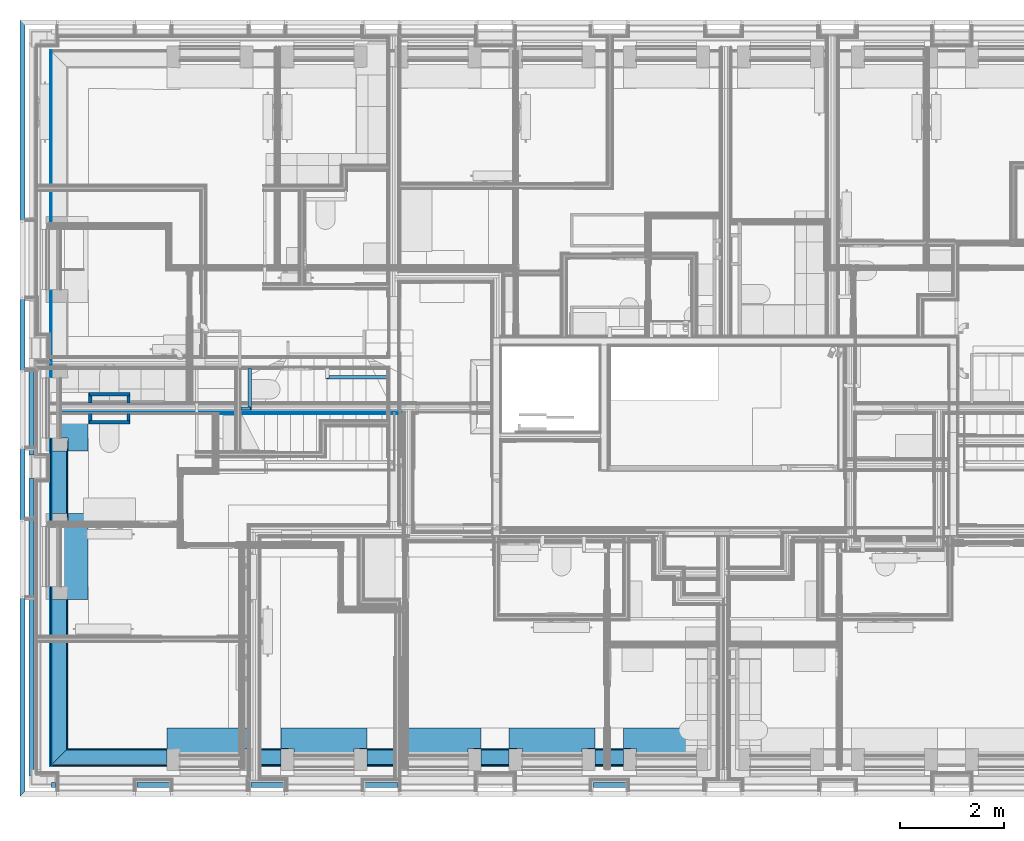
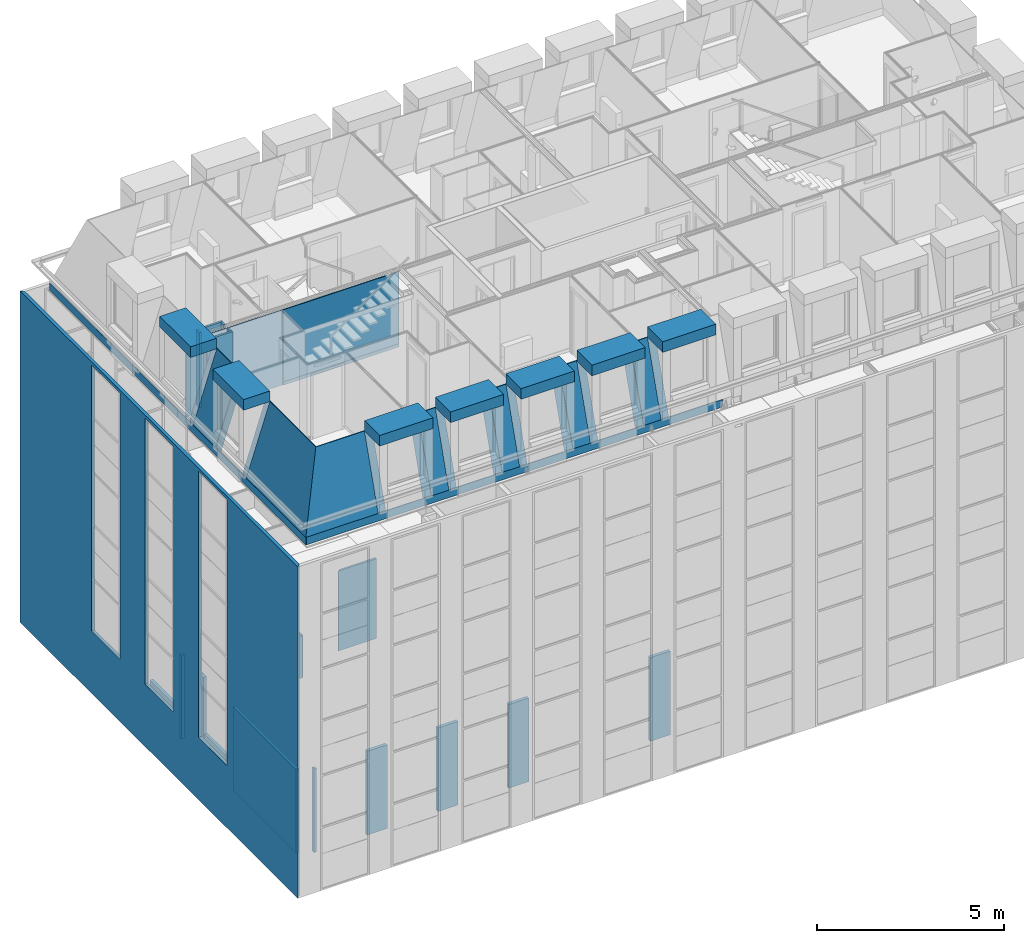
# One storey, part 1 of 169: 48 walls, 3 openings.
"""IFC2X3 building model written with IfcOpenShell, lengths in metres."""

from ifc_helpers import new_model, entity, si_unit, converted_unit, derived_unit, money_unit, direction, frame, frame_2d, origin_with_axes, place, context, subcontext, project, spatial, polyline, rectangle, outline, extrude, clip, halfspace, material, layer, layer_set, layer_usage, type_object, element, save


model = new_model("IFC2X3")

# Units and contexts
model_context = context("Model", 3, precision=1e-05, world=origin_with_axes(), true_north=direction((0.0, 1.0)))
body_context = subcontext(model_context, "Body", "Model", "MODEL_VIEW", scale=1.0)
ifc_project = project(units=[si_unit("LENGTHUNIT", "METRE"), si_unit("AREAUNIT", "SQUARE_METRE"), si_unit("VOLUMEUNIT", "CUBIC_METRE"), si_unit("ABSORBEDDOSEUNIT", "GRAY"), si_unit("AMOUNTOFSUBSTANCEUNIT", "MOLE"), si_unit("DOSEEQUIVALENTUNIT", "SIEVERT"), si_unit("ELECTRICCAPACITANCEUNIT", "FARAD"), si_unit("ELECTRICCHARGEUNIT", "COULOMB"), si_unit("ELECTRICCONDUCTANCEUNIT", "SIEMENS"), si_unit("ELECTRICCURRENTUNIT", "AMPERE"), si_unit("ELECTRICRESISTANCEUNIT", "OHM"), si_unit("ELECTRICVOLTAGEUNIT", "VOLT"), si_unit("ENERGYUNIT", "JOULE"), si_unit("FORCEUNIT", "NEWTON"), si_unit("FREQUENCYUNIT", "HERTZ"), si_unit("ILLUMINANCEUNIT", "LUX"), si_unit("INDUCTANCEUNIT", "HENRY"), si_unit("LUMINOUSFLUXUNIT", "LUMEN"), si_unit("LUMINOUSINTENSITYUNIT", "CANDELA"), si_unit("MAGNETICFLUXDENSITYUNIT", "TESLA"), si_unit("MAGNETICFLUXUNIT", "WEBER"), si_unit("MASSUNIT", "GRAM"), converted_unit("PLANEANGLEUNIT", "degree", entity("IfcReal", 0.0174532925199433), si_unit("PLANEANGLEUNIT", "RADIAN"), dimensions=[0, 0, 0, 0, 0, 0, 0]), si_unit("POWERUNIT", "WATT"), si_unit("PRESSUREUNIT", "PASCAL"), si_unit("RADIOACTIVITYUNIT", "BECQUEREL"), si_unit("SOLIDANGLEUNIT", "STERADIAN"), si_unit("THERMODYNAMICTEMPERATUREUNIT", "KELVIN"), si_unit("TIMEUNIT", "SECOND"), derived_unit("ACCELERATIONUNIT", [(si_unit("LENGTHUNIT", "METRE"), 1), (si_unit("TIMEUNIT", "SECOND"), -2)]), derived_unit("ANGULARVELOCITYUNIT", [(converted_unit("PLANEANGLEUNIT", "degree", entity("IfcReal", 0.0174532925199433), si_unit("PLANEANGLEUNIT", "RADIAN"), dimensions=[0, 0, 0, 0, 0, 0, 0]), 1), (si_unit("TIMEUNIT", "SECOND"), -1)]), derived_unit("CURVATUREUNIT", [(converted_unit("PLANEANGLEUNIT", "degree", entity("IfcReal", 0.0174532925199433), si_unit("PLANEANGLEUNIT", "RADIAN"), dimensions=[0, 0, 0, 0, 0, 0, 0]), 1), (si_unit("LENGTHUNIT", "METRE"), -1)]), derived_unit("DYNAMICVISCOSITYUNIT", [(si_unit("PRESSUREUNIT", "PASCAL"), 1), (si_unit("TIMEUNIT", "SECOND"), 1)]), derived_unit("HEATFLUXDENSITYUNIT", [(si_unit("POWERUNIT", "WATT"), 1), (si_unit("LENGTHUNIT", "METRE"), -2)]), derived_unit("HEATINGVALUEUNIT", [(si_unit("ENERGYUNIT", "JOULE"), 1), (si_unit("MASSUNIT", "GRAM"), -1)]), derived_unit("INTEGERCOUNTRATEUNIT", [(si_unit("TIMEUNIT", "SECOND"), -1)]), derived_unit("IONCONCENTRATIONUNIT", [(si_unit("MASSUNIT", "GRAM"), 1), (si_unit("VOLUMEUNIT", "CUBIC_METRE"), -1)]), derived_unit("ISOTHERMALMOISTURECAPACITYUNIT", [(si_unit("VOLUMEUNIT", "CUBIC_METRE"), 1), (si_unit("MASSUNIT", "GRAM"), -1)]), derived_unit("KINEMATICVISCOSITYUNIT", [(si_unit("AREAUNIT", "SQUARE_METRE"), 1), (si_unit("TIMEUNIT", "SECOND"), -1)]), derived_unit("LINEARFORCEUNIT", [(si_unit("FORCEUNIT", "NEWTON"), 1), (si_unit("LENGTHUNIT", "METRE"), -1)]), derived_unit("LINEARMOMENTUNIT", [(si_unit("FORCEUNIT", "NEWTON"), 1), (si_unit("LENGTHUNIT", "METRE"), -1)]), derived_unit("LINEARSTIFFNESSUNIT", [(si_unit("FORCEUNIT", "NEWTON"), 1), (si_unit("LENGTHUNIT", "METRE"), -1)]), derived_unit("LINEARVELOCITYUNIT", [(si_unit("LENGTHUNIT", "METRE"), 1), (si_unit("TIMEUNIT", "SECOND"), -1)]), derived_unit("LUMINOUSINTENSITYDISTRIBUTIONUNIT", [(si_unit("LUMINOUSINTENSITYUNIT", "CANDELA"), 1), (si_unit("LUMINOUSFLUXUNIT", "LUMEN"), -1)]), derived_unit("MASSDENSITYUNIT", [(si_unit("MASSUNIT", "GRAM"), 1), (si_unit("VOLUMEUNIT", "CUBIC_METRE"), -1)]), derived_unit("MASSFLOWRATEUNIT", [(si_unit("MASSUNIT", "GRAM"), 1), (si_unit("TIMEUNIT", "SECOND"), -1)]), derived_unit("MASSPERLENGTHUNIT", [(si_unit("MASSUNIT", "GRAM"), 1), (si_unit("LENGTHUNIT", "METRE"), -1)]), derived_unit("MODULUSOFELASTICITYUNIT", [(si_unit("FORCEUNIT", "NEWTON"), 1), (si_unit("AREAUNIT", "SQUARE_METRE"), -1)]), derived_unit("MODULUSOFLINEARSUBGRADEREACTIONUNIT", [(si_unit("FORCEUNIT", "NEWTON"), 1), (si_unit("LENGTHUNIT", "METRE"), -2)]), derived_unit("MODULUSOFROTATIONALSUBGRADEREACTIONUNIT", [(si_unit("FORCEUNIT", "NEWTON"), 1), (si_unit("LENGTHUNIT", "METRE"), 1)]), derived_unit("MODULUSOFSUBGRADEREACTIONUNIT", [(si_unit("FORCEUNIT", "NEWTON"), 1), (si_unit("VOLUMEUNIT", "CUBIC_METRE"), -1)]), derived_unit("MOISTUREDIFFUSIVITYUNIT", [(si_unit("VOLUMEUNIT", "CUBIC_METRE"), 1), (si_unit("TIMEUNIT", "SECOND"), -1)]), derived_unit("MOLECULARWEIGHTUNIT", [(si_unit("MASSUNIT", "GRAM"), 1), (si_unit("AMOUNTOFSUBSTANCEUNIT", "MOLE"), -1)]), derived_unit("PLANARFORCEUNIT", [(si_unit("FORCEUNIT", "NEWTON"), 1), (si_unit("LENGTHUNIT", "METRE"), -2)]), derived_unit("ROTATIONALFREQUENCYUNIT", [(si_unit("TIMEUNIT", "SECOND"), -1)]), derived_unit("ROTATIONALMASSUNIT", [(si_unit("MASSUNIT", "GRAM"), 1), (si_unit("LENGTHUNIT", "METRE"), 2)]), derived_unit("ROTATIONALSTIFFNESSUNIT", [(si_unit("FORCEUNIT", "NEWTON"), 1), (si_unit("LENGTHUNIT", "METRE"), 1), (converted_unit("PLANEANGLEUNIT", "degree", entity("IfcReal", 0.0174532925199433), si_unit("PLANEANGLEUNIT", "RADIAN"), dimensions=[0, 0, 0, 0, 0, 0, 0]), -1)]), derived_unit("SECTIONAREAINTEGRALUNIT", [(si_unit("LENGTHUNIT", "METRE"), 5)]), derived_unit("SECTIONMODULUSUNIT", [(si_unit("LENGTHUNIT", "METRE"), 3)]), derived_unit("SHEARMODULUSUNIT", [(si_unit("FORCEUNIT", "NEWTON"), 1), (si_unit("AREAUNIT", "SQUARE_METRE"), -1)]), derived_unit("SOUNDPOWERUNIT", [(si_unit("ENERGYUNIT", "JOULE"), 1), (si_unit("TIMEUNIT", "SECOND"), -1)]), derived_unit("SPECIFICHEATCAPACITYUNIT", [(si_unit("FORCEUNIT", "NEWTON"), 1), (si_unit("MASSUNIT", "GRAM"), -1), (si_unit("THERMODYNAMICTEMPERATUREUNIT", "KELVIN"), -1)]), derived_unit("TEMPERATUREGRADIENTUNIT", [(si_unit("THERMODYNAMICTEMPERATUREUNIT", "KELVIN"), 1), (si_unit("LENGTHUNIT", "METRE"), -1)]), derived_unit("THERMALADMITTANCEUNIT", [(si_unit("POWERUNIT", "WATT"), 1), (si_unit("AREAUNIT", "SQUARE_METRE"), -1), (si_unit("THERMODYNAMICTEMPERATUREUNIT", "KELVIN"), -1)]), derived_unit("THERMALCONDUCTANCEUNIT", [(si_unit("POWERUNIT", "WATT"), 1), (si_unit("LENGTHUNIT", "METRE"), -1), (si_unit("THERMODYNAMICTEMPERATUREUNIT", "KELVIN"), -1)]), derived_unit("THERMALEXPANSIONCOEFFICIENTUNIT", [(si_unit("THERMODYNAMICTEMPERATUREUNIT", "KELVIN"), -1)]), derived_unit("THERMALRESISTANCEUNIT", [(si_unit("AREAUNIT", "SQUARE_METRE"), 1), (si_unit("POWERUNIT", "WATT"), -1)]), derived_unit("THERMALTRANSMITTANCEUNIT", [(si_unit("POWERUNIT", "WATT"), 1), (si_unit("AREAUNIT", "SQUARE_METRE"), -1), (si_unit("THERMODYNAMICTEMPERATUREUNIT", "KELVIN"), -1)]), derived_unit("TORQUEUNIT", [(si_unit("FORCEUNIT", "NEWTON"), 1), (si_unit("LENGTHUNIT", "METRE"), 1)]), derived_unit("VAPORPERMEABILITYUNIT", [(si_unit("MASSUNIT", "GRAM"), 1), (si_unit("TIMEUNIT", "SECOND"), -1)]), derived_unit("VOLUMETRICFLOWRATEUNIT", [(si_unit("VOLUMEUNIT", "CUBIC_METRE"), 1), (si_unit("TIMEUNIT", "SECOND"), -1)]), derived_unit("WARPINGCONSTANTUNIT", [(si_unit("LENGTHUNIT", "METRE"), 6)]), derived_unit("WARPINGMOMENTUNIT", [(si_unit("FORCEUNIT", "NEWTON"), 1), (si_unit("LENGTHUNIT", "METRE"), 2)]), money_unit("GBP")], contexts=[model_context])

# Site, building, storey
site_placement = place(None, origin_with_axes())
site = spatial("IfcSite", under=ifc_project, at=site_placement, Name="Site", CompositionType="ELEMENT")
building_placement = place(site_placement, origin_with_axes())
building = spatial("IfcBuilding", under=site, at=building_placement, Name="Building01", CompositionType="ELEMENT")
storey_placement = place(building_placement, frame((0.0, 0.0, 5.15), z_axis=(0.0, 0.0, 1.0), x_axis=(1.0, 0.0, 0.0)))
storey = spatial("IfcBuildingStorey", under=building, at=storey_placement, Name="1F", CompositionType="ELEMENT", Elevation=5.15)

# Wall, openings
ifc_material_1 = material(Name="A_BSUK_WallsExternal_Brick")
ifc_layer_1 = layer(ifc_material_1, 0.1, ventilated=False)
ifc_layer_set_1 = layer_set([ifc_layer_1])
ifc_layer_usage_1 = layer_usage(ifc_layer_set_1, "AXIS2", "POSITIVE", 0.0)
wall_type_1 = type_object("IfcWallType", Name="A-Walls-ExternalBrick", PredefinedType="NOTDEFINED")
wall_1_placement = place(storey_placement, frame((0.0, 0.0, -1.18), z_axis=(0.0, 0.0, 1.0), x_axis=(0.0, 1.0, 0.0)))
wall_1 = element("IfcWallStandardCase", 1, at=wall_1_placement, inside=storey, type_object=wall_type_1, material=ifc_layer_usage_1, Name="A-Walls-ExternalBrick", ObjectType="A-Walls-ExternalBrick", context=body_context, shape_type="SweptSolid", body=[
    extrude(outline(polyline([(14.9, 0.0), (0.0, 0.0), (0.1, -0.1), (14.8, -0.1), (14.9, 0.0)])), origin_with_axes(), (0.0, 0.0, 1.0), 10.850238),
])
opening_1_placement = place(wall_1_placement, frame((9.53718, -0.1, 2.045508), z_axis=(0.0, 0.0, 1.0), x_axis=(1.0, 0.0, 0.0)))
element("IfcOpeningElement", 2, at=opening_1_placement, cuts=wall_1, Name="Opening", ObjectType="Opening", context=body_context, shape_type="SweptSolid", body=[
    extrude(rectangle(XDim=1.52, YDim=8.7, at=frame_2d((-0.76, 4.35), x_axis=(-1.0, 0.0))), frame((0.0, 0.0, 0.0), z_axis=(0.0, 1.0, 0.0), x_axis=(-1.0, 0.0, 0.0)), (0.0, 0.0, 1.0), 0.1),
])
opening_2_placement = place(wall_1_placement, frame((6.66718, -0.1, 2.045508), z_axis=(0.0, 0.0, 1.0), x_axis=(1.0, 0.0, 0.0)))
element("IfcOpeningElement", 3, at=opening_2_placement, cuts=wall_1, Name="Opening", ObjectType="Opening", context=body_context, shape_type="SweptSolid", body=[
    extrude(rectangle(XDim=1.52, YDim=8.7, at=frame_2d((-0.76, 4.35), x_axis=(-1.0, 0.0))), frame((0.0, 0.0, 0.0), z_axis=(0.0, 1.0, 0.0), x_axis=(-1.0, 0.0, 0.0)), (0.0, 0.0, 1.0), 0.1),
])
opening_3_placement = place(wall_1_placement, frame((3.79718, -0.1, 2.045508), z_axis=(0.0, 0.0, 1.0), x_axis=(1.0, 0.0, 0.0)))
element("IfcOpeningElement", 4, at=opening_3_placement, cuts=wall_1, Name="Opening", ObjectType="Opening", context=body_context, shape_type="SweptSolid", body=[
    extrude(rectangle(XDim=1.52, YDim=8.7, at=frame_2d((-0.76, 4.35), x_axis=(-1.0, 0.0))), frame((0.0, 0.0, 0.0), z_axis=(0.0, 1.0, 0.0), x_axis=(-1.0, 0.0, 0.0)), (0.0, 0.0, 1.0), 0.1),
])

# Walls
ifc_material_2 = material(Name="A_BSUK_WallsExternal_Block")
ifc_layer_2 = layer(ifc_material_2, 0.1, ventilated=False)
ifc_layer_set_2 = layer_set([ifc_layer_2])
ifc_layer_usage_2 = layer_usage(ifc_layer_set_2, "AXIS2", "POSITIVE", 0.0)
wall_type_2 = type_object("IfcWallType", Name="A-Walls-ExternalBlock", PredefinedType="NOTDEFINED")
wall_2_placement = place(storey_placement, frame((0.17, 8.233, 0.0), z_axis=(0.0, 0.0, 1.0), x_axis=(0.0, -1.0, 0.0)))
element("IfcWallStandardCase", 5, at=wall_2_placement, inside=storey, type_object=wall_type_2, material=ifc_layer_usage_2, Name="A-Walls-ExternalBlock", ObjectType="A-Walls-ExternalBlock", context=body_context, shape_type="SweptSolid", body=[
    extrude(rectangle(XDim=1.58882, YDim=0.1, at=frame_2d((0.79441, 0.05), x_axis=(1.0, 0.0))), origin_with_axes(), (0.0, 0.0, 1.0), 0.915),
])
wall_3_placement = place(storey_placement, frame((0.17, 6.64418, 0.0), z_axis=(0.0, 0.0, 1.0), x_axis=(0.0, -1.0, 0.0)))
element("IfcWallStandardCase", 6, at=wall_3_placement, inside=storey, type_object=wall_type_2, material=ifc_layer_usage_2, Name="A-Walls-ExternalBlock", ObjectType="A-Walls-ExternalBlock", context=body_context, shape_type="SweptSolid", body=[
    extrude(rectangle(XDim=0.09618, YDim=0.1, at=frame_2d((0.04809, 0.05), x_axis=(-1.0, 0.0))), origin_with_axes(), (0.0, 0.0, 1.0), 2.74),
])
wall_4_placement = place(storey_placement, frame((0.17, 6.1, 0.0), z_axis=(0.0, 0.0, 1.0), x_axis=(0.0, -1.0, 0.0)))
element("IfcWallStandardCase", 7, at=wall_4_placement, inside=storey, type_object=wall_type_2, material=ifc_layer_usage_2, Name="A-Walls-ExternalBlock", ObjectType="A-Walls-ExternalBlock", context=body_context, shape_type="SweptSolid", body=[
    extrude(rectangle(XDim=0.737, YDim=0.1, at=frame_2d((0.3685, 0.05), x_axis=(-1.0, 0.0))), origin_with_axes(), (0.0, 0.0, 1.0), 2.74),
])
wall_5_placement = place(storey_placement, frame((0.17, 3.77418, 0.0), z_axis=(0.0, 0.0, 1.0), x_axis=(0.0, -1.0, 0.0)))
element("IfcWallStandardCase", 8, at=wall_5_placement, inside=storey, type_object=wall_type_2, material=ifc_layer_usage_2, Name="A-Walls-ExternalBlock", ObjectType="A-Walls-ExternalBlock", context=body_context, shape_type="SweptSolid", body=[
    extrude(rectangle(XDim=0.1, YDim=3.37418, at=frame_2d((1.68709, 0.05), x_axis=(0.0, -1.0))), origin_with_axes(), (0.0, 0.0, 1.0), 2.74),
])
wall_6_placement = place(storey_placement, frame((0.677, 0.27, 0.0), z_axis=(0.0, 0.0, 1.0), x_axis=(-1.0, 0.0, 0.0)))
element("IfcWallStandardCase", 9, at=wall_6_placement, inside=storey, type_object=wall_type_2, material=ifc_layer_usage_2, Name="A-Walls-ExternalBlock", ObjectType="A-Walls-ExternalBlock", context=body_context, shape_type="SweptSolid", body=[
    extrude(rectangle(XDim=0.1, YDim=0.077, at=frame_2d((0.0385, 0.05), x_axis=(0.0, -1.0))), origin_with_axes(), (0.0, 0.0, 1.0), 2.74),
])
for number, where, z_axis, x_axis, name in (
    (10, (2.867, 0.27, 0.0), (0.0, 0.0, 1.0), (-1.0, 0.0, 0.0), "A-Walls-ExternalBlock"),
    (11, (5.057, 0.27, 0.0), (0.0, 0.0, 1.0), (-1.0, 0.0, 0.0), "A-Walls-ExternalBlock"),
    (12, (7.247, 0.27, 0.0), (0.0, 0.0, 1.0), (-1.0, 0.0, 0.0), "A-Walls-ExternalBlock"),
    (13, (11.627, 0.27, 0.0), (0.0, 0.0, 1.0), (-1.0, 0.0, 0.0), "A-Walls-ExternalBlock"),
):
    element("IfcWallStandardCase", number, at=place(storey_placement, frame(where, z_axis=z_axis, x_axis=x_axis)), inside=storey, type_object=wall_type_2, material=ifc_layer_usage_2, Name=name, ObjectType="A-Walls-ExternalBlock", context=body_context, shape_type="SweptSolid", body=[
        extrude(rectangle(XDim=0.624, YDim=0.1, at=frame_2d((0.312, 0.05), x_axis=(-1.0, 0.0))), origin_with_axes(), (0.0, 0.0, 1.0), 2.74),
    ])
wall_7_placement = place(storey_placement, frame((0.17, 5.315, 0.0), z_axis=(0.0, 0.0, 1.0), x_axis=(0.0, -1.0, 0.0)))
element("IfcWallStandardCase", 14, at=wall_7_placement, inside=storey, type_object=wall_type_2, material=ifc_layer_usage_2, Name="A-Walls-ExternalBlock", ObjectType="A-Walls-ExternalBlock", context=body_context, shape_type="SweptSolid", body=[
    extrude(rectangle(XDim=0.1, YDim=1.54082, at=frame_2d((0.77041, 0.05), x_axis=(0.0, -1.0))), origin_with_axes(), (0.0, 0.0, 1.0), 0.915),
])
ifc_material_3 = material(Name="A_BSUK_WallsInternal")
ifc_layer_3 = layer(ifc_material_3, 0.025, ventilated=False)
ifc_layer_set_3 = layer_set([ifc_layer_3])
ifc_layer_usage_3 = layer_usage(ifc_layer_set_3, "AXIS2", "POSITIVE", 0.0)
wall_type_3 = type_object("IfcWallType", Name="A-Walls-Internal", PredefinedType="NOTDEFINED")
wall_8_placement = place(storey_placement, frame((0.5788, 0.5788, 9.83), z_axis=(0.0, 0.0, 1.0), x_axis=(1.0, 0.0, 0.0)))
element("IfcWallStandardCase", 15, at=wall_8_placement, inside=storey, type_object=wall_type_3, material=ifc_layer_usage_3, Name="7C", ObjectType="A-Walls-Internal", context=body_context, shape_type="SweptSolid", body=[
    extrude(outline(polyline([(0.025, 0.025), (0.0, 0.0), (12.9112, 0.0), (12.9112, 0.025), (0.025, 0.025)])), origin_with_axes(), (0.0, 0.0, 1.0), 0.25),
])
wall_9_placement = place(storey_placement, frame((0.5788, 7.45, 9.83), z_axis=(0.0, 0.0, 1.0), x_axis=(0.0, -1.0, 0.0)))
element("IfcWallStandardCase", 16, at=wall_9_placement, inside=storey, type_object=wall_type_3, material=ifc_layer_usage_3, Name="7C", ObjectType="A-Walls-Internal", context=body_context, shape_type="SweptSolid", body=[
    extrude(outline(polyline([(6.8462, 0.025), (0.0, 0.025), (0.0, 0.0), (6.8712, 0.0), (6.8462, 0.025)])), origin_with_axes(), (0.0, 0.0, 1.0), 0.25),
])
ifc_layer_4 = layer(ifc_material_3, 0.015, ventilated=False)
ifc_layer_set_4 = layer_set([ifc_layer_4])
ifc_layer_usage_4 = layer_usage(ifc_layer_set_4, "AXIS2", "POSITIVE", 0.0)
wall_10_placement = place(storey_placement, frame((0.5788, 14.3212, 9.83), z_axis=(0.0, 0.0, 1.0), x_axis=(0.0, -1.0, 0.0)))
element("IfcWallStandardCase", 17, at=wall_10_placement, inside=storey, type_object=wall_type_3, material=ifc_layer_usage_4, Name="7C", ObjectType="A-Walls-Internal", context=body_context, shape_type="SweptSolid", body=[
    extrude(rectangle(XDim=13.7424, YDim=0.015, at=frame_2d((6.8712, 0.0075), x_axis=(-1.0, 0.0))), origin_with_axes(), (0.0, 0.0, 1.0), 0.25),
])
wall_11_placement = place(storey_placement, frame((0.5938, 14.3062, 9.83), z_axis=(0.0, 0.0, 1.0), x_axis=(0.0, -1.0, 0.0)))
element("IfcWallStandardCase", 18, at=wall_11_placement, inside=storey, type_object=wall_type_3, material=ifc_layer_usage_4, Name="7C", ObjectType="A-Walls-Internal", context=body_context, shape_type="SweptSolid", body=[
    extrude(rectangle(XDim=13.7124, YDim=0.015, at=frame_2d((6.8562, 0.0075), x_axis=(-1.0, 0.0))), origin_with_axes(), (0.0, 0.0, 1.0), 0.25),
])
ifc_material_4 = material(Name="A_BSUK_Walls_Timber")
ifc_layer_5 = layer(ifc_material_4, 0.015, ventilated=False)
ifc_material_5 = material(Name="A_BSUK_OpeningsClearance")
ifc_layer_6 = layer(ifc_material_5, 0.05, ventilated=False)
ifc_layer_set_5 = layer_set([ifc_layer_5, ifc_layer_6])
ifc_layer_usage_5 = layer_usage(ifc_layer_set_5, "AXIS2", "POSITIVE", 0.0)
wall_type_4 = type_object("IfcWallType", Name="SHE_A-Walls_Type05c_PreWallShell_65mm", PredefinedType="NOTDEFINED")
wall_12_placement = place(storey_placement, frame((5.929669, 8.07567, 0.0), z_axis=(0.0, 0.0, 1.0), x_axis=(1.0, 0.0, 0.0)))
element("IfcWallStandardCase", 19, at=wall_12_placement, inside=storey, type_object=wall_type_4, material=ifc_layer_usage_5, Name="5C", ObjectType="SHE_A-Walls_Type05c_PreWallShell_65mm", context=body_context, shape_type="SweptSolid", body=[
    extrude(outline(polyline([(1.135, 0.0), (0.0, 0.0), (0.0, -0.05), (-0.05, -0.05), (-0.05, -0.065), (1.135, -0.065), (1.135, 0.0)])), origin_with_axes(), (0.0, 0.0, 1.0), 2.615),
])
ifc_layer_set_6 = layer_set([ifc_layer_6, ifc_layer_5])
ifc_layer_usage_6 = layer_usage(ifc_layer_set_6, "AXIS2", "POSITIVE", 0.0)
wall_13_placement = place(storey_placement, frame((4.37573, 8.21067, 0.0), z_axis=(0.0, 0.0, 1.0), x_axis=(0.0, -1.0, 0.0)))
element("IfcWallStandardCase", 20, at=wall_13_placement, inside=storey, type_object=wall_type_4, material=ifc_layer_usage_6, Name="5C", ObjectType="SHE_A-Walls_Type05c_PreWallShell_65mm", context=body_context, shape_type="SweptSolid", body=[
    extrude(outline(polyline([(0.735, 0.05), (0.8, 0.05), (0.8, 0.065), (0.0, 0.065), (0.0, 0.0), (0.735, 0.0), (0.735, 0.05)])), origin_with_axes(), (0.0, 0.0, 1.0), 1.375),
])
wall_14_placement = place(storey_placement, frame((4.42573, 7.47567, 0.0), z_axis=(0.0, 0.0, 1.0), x_axis=(-1.0, 0.0, 0.0)))
element("IfcWallStandardCase", 21, at=wall_14_placement, inside=storey, type_object=wall_type_4, material=ifc_layer_usage_6, Name="5C", ObjectType="SHE_A-Walls_Type05c_PreWallShell_65mm", context=body_context, shape_type="SweptSolid", body=[
    extrude(rectangle(XDim=0.185, YDim=0.065, at=frame_2d((0.0925, 0.0325), x_axis=(-1.0, 0.0))), origin_with_axes(), (0.0, 0.0, 1.0), 1.375),
])
wall_15_placement = place(storey_placement, frame((2.100111, 7.21494, 9.83), z_axis=(0.0, 0.0, 1.0), x_axis=(1.0, 0.0, 0.0)))
element("IfcWallStandardCase", 22, at=wall_15_placement, inside=storey, type_object=wall_type_4, material=ifc_layer_usage_5, Name="5C", ObjectType="SHE_A-Walls_Type05c_PreWallShell_65mm", context=body_context, shape_type="SweptSolid", body=[
    extrude(outline(polyline([(0.015, -0.065), (0.015, -0.05), (0.0, -0.05), (0.0, 0.0), (-0.77, 0.0), (-0.77, -0.05), (-0.785, -0.05), (-0.785, -0.065), (0.015, -0.065)])), origin_with_axes(), (0.0, 0.0, 1.0), 2.468),
])
wall_16_placement = place(storey_placement, frame((2.050111, 7.349889, 9.83), z_axis=(0.0, 0.0, 1.0), x_axis=(0.0, 1.0, 0.0)))
element("IfcWallStandardCase", 23, at=wall_16_placement, inside=storey, type_object=wall_type_4, material=ifc_layer_usage_5, Name="5C", ObjectType="SHE_A-Walls_Type05c_PreWallShell_65mm", context=body_context, shape_type="SweptSolid", body=[
    extrude(outline(polyline([(0.0, -0.065), (0.0, 0.0), (-0.134949, 0.0), (-0.134949, -0.05), (-0.184949, -0.05), (-0.184949, -0.065), (0.0, -0.065)])), origin_with_axes(), (0.0, 0.0, 1.0), 2.468),
])
wall_17_placement = place(storey_placement, frame((1.380111, 7.349889, 9.83), z_axis=(0.0, 0.0, 1.0), x_axis=(0.0, 1.0, 0.0)))
element("IfcWallStandardCase", 24, at=wall_17_placement, inside=storey, type_object=wall_type_4, material=ifc_layer_usage_6, Name="5C", ObjectType="SHE_A-Walls_Type05c_PreWallShell_65mm", context=body_context, shape_type="SweptSolid", body=[
    extrude(outline(polyline([(0.0, 0.0), (0.0, 0.065), (-0.184949, 0.065), (-0.184949, 0.05), (-0.134949, 0.05), (-0.134949, 0.0), (0.0, 0.0)])), origin_with_axes(), (0.0, 0.0, 1.0), 2.468),
])
wall_18_placement = place(storey_placement, frame((2.100111, 7.68506, 9.83), z_axis=(0.0, 0.0, 1.0), x_axis=(-1.0, 0.0, 0.0)))
element("IfcWallStandardCase", 25, at=wall_18_placement, inside=storey, type_object=wall_type_4, material=ifc_layer_usage_5, Name="5C", ObjectType="SHE_A-Walls_Type05c_PreWallShell_65mm", context=body_context, shape_type="SweptSolid", body=[
    extrude(outline(polyline([(0.77, -0.05), (0.77, 0.0), (0.0, 0.0), (0.0, -0.05), (-0.015, -0.05), (-0.015, -0.065), (0.785, -0.065), (0.785, -0.05), (0.77, -0.05)])), origin_with_axes(), (0.0, 0.0, 1.0), 2.468),
])
wall_19_placement = place(storey_placement, frame((2.050111, 7.550111, 9.83), z_axis=(0.0, 0.0, 1.0), x_axis=(0.0, 1.0, 0.0)))
element("IfcWallStandardCase", 26, at=wall_19_placement, inside=storey, type_object=wall_type_4, material=ifc_layer_usage_5, Name="5C", ObjectType="SHE_A-Walls_Type05c_PreWallShell_65mm", context=body_context, shape_type="SweptSolid", body=[
    extrude(outline(polyline([(0.134949, -0.05), (0.134949, 0.0), (0.0, 0.0), (0.0, -0.065), (0.184949, -0.065), (0.184949, -0.05), (0.134949, -0.05)])), origin_with_axes(), (0.0, 0.0, 1.0), 2.468),
])
wall_20_placement = place(storey_placement, frame((1.380111, 7.550111, 9.83), z_axis=(0.0, 0.0, 1.0), x_axis=(0.0, 1.0, 0.0)))
element("IfcWallStandardCase", 27, at=wall_20_placement, inside=storey, type_object=wall_type_4, material=ifc_layer_usage_6, Name="5C", ObjectType="SHE_A-Walls_Type05c_PreWallShell_65mm", context=body_context, shape_type="SweptSolid", body=[
    extrude(outline(polyline([(0.134949, 0.05), (0.184949, 0.05), (0.184949, 0.065), (0.0, 0.065), (0.0, 0.0), (0.134949, 0.0), (0.134949, 0.05)])), origin_with_axes(), (0.0, 0.0, 1.0), 2.468),
])
ifc_material_6 = material(Name="A_BSUK_WallInternal_Finishes_Plasterboard")
ifc_layer_7 = layer(ifc_material_6, 0.015, ventilated=False)
ifc_layer_set_7 = layer_set([ifc_layer_7])
ifc_layer_usage_7 = layer_usage(ifc_layer_set_7, "AXIS2", "POSITIVE", 0.0)
wall_type_5 = type_object("IfcWallType", Name="default", PredefinedType="NOTDEFINED")
wall_21_placement = place(storey_placement, frame((7.36, 7.364939, 9.83), z_axis=(0.0, 0.0, 1.0), x_axis=(-1.0, 0.0, 0.0)))
element("IfcWallStandardCase", 28, at=wall_21_placement, inside=storey, type_object=wall_type_5, material=ifc_layer_usage_7, Name="default", ObjectType="default", context=body_context, shape_type="SweptSolid", body=[
    extrude(outline(polyline([(3.564889, 0.015), (0.0, 0.015), (0.0, 0.0), (3.579889, 0.0), (3.564889, 0.015)])), origin_with_axes(), (0.0, 0.0, 1.0), 2.468),
])
wall_22_placement = place(storey_placement, frame((7.375, 7.379939, 9.83), z_axis=(0.0, 0.0, 1.0), x_axis=(-1.0, 0.0, 0.0)))
element("IfcWallStandardCase", 29, at=wall_22_placement, inside=storey, type_object=wall_type_5, material=ifc_layer_usage_7, Name="default", ObjectType="default", context=body_context, shape_type="SweptSolid", body=[
    extrude(rectangle(XDim=6.595061, YDim=0.015, at=frame_2d((3.29753, 0.0075), x_axis=(-1.0, 0.0))), origin_with_axes(), (0.0, 0.0, 1.0), 2.468),
])
ifc_layer_set_8 = layer_set([ifc_layer_5])
ifc_layer_usage_8 = layer_usage(ifc_layer_set_8, "AXIS2", "POSITIVE", 0.0)
wall_23_placement = place(storey_placement, frame((7.36, 7.349939, 9.845), z_axis=(0.0, 0.0, 1.0), x_axis=(-1.0, 0.0, 0.0)))
element("IfcWallStandardCase", 30, at=wall_23_placement, inside=storey, type_object=wall_type_5, material=ifc_layer_usage_8, Name="default", ObjectType="default", context=body_context, shape_type="SweptSolid", body=[
    extrude(outline(polyline([(3.549889, 0.015), (0.0, 0.015), (0.0, 0.0), (3.564889, 0.0), (3.549889, 0.015)])), origin_with_axes(), (0.0, 0.0, 1.0), 0.1),
])
ifc_material_7 = material(Name="A_BSUK_Roofs")
wall_type_6 = type_object("IfcWallType", Name="A-Walls-ExternalBlock", PredefinedType="NOTDEFINED")
for number, where, z_axis, x_axis, name in (
    (31, (11.580024, 1.31, 12.679998), (1.0, 0.0, 0.0), (0.0, -1.0, 0.0), "7C"),
    (32, (9.390024, 1.31, 12.679998), (1.0, 0.0, 0.0), (0.0, -1.0, 0.0), "7C"),
    (33, (7.200024, 1.31, 12.679998), (1.0, 0.0, 0.0), (0.0, -1.0, 0.0), "7C"),
    (34, (5.010024, 1.31, 12.679998), (1.0, 0.0, 0.0), (0.0, -1.0, 0.0), "7C"),
    (35, (2.820024, 1.31, 12.679998), (1.0, 0.0, 0.0), (0.0, -1.0, 0.0), "7C"),
):
    element("IfcWall", number, at=place(storey_placement, frame(where, z_axis=z_axis, x_axis=x_axis)), inside=storey, type_object=wall_type_6, material=ifc_material_7, Name=name, ObjectType="A-Walls-ExternalBlock", context=body_context, shape_type="SweptSolid", body=[
        extrude(rectangle(XDim=0.81, YDim=0.349998, at=frame_2d((0.405, 0.174999), x_axis=(1.0, 0.0))), origin_with_axes(), (0.0, 0.0, 1.0), 1.65),
    ])
wall_24_placement = place(storey_placement, frame((1.309904, 8.274915, 12.679999), z_axis=(0.0, -1.0, 0.0), x_axis=(-1.0, 0.0, 0.0)))
element("IfcWall", 36, at=wall_24_placement, inside=storey, type_object=wall_type_6, material=ifc_material_7, Name="7C", ObjectType="A-Walls-ExternalBlock", context=body_context, shape_type="SweptSolid", body=[
    extrude(rectangle(XDim=0.81, YDim=0.35, at=frame_2d((0.405, 0.175), x_axis=(1.0, 0.0))), origin_with_axes(), (0.0, 0.0, 1.0), 1.65),
])
wall_25_placement = place(storey_placement, frame((1.309904, 5.424915, 12.68), z_axis=(0.0, -1.0, 0.0), x_axis=(-1.0, 0.0, 0.0)))
element("IfcWall", 37, at=wall_25_placement, inside=storey, type_object=wall_type_6, material=ifc_material_7, Name="7C", ObjectType="A-Walls-ExternalBlock", context=body_context, shape_type="SweptSolid", body=[
    extrude(rectangle(XDim=0.81, YDim=0.350001, at=frame_2d((0.405, 0.175), x_axis=(1.0, 0.0))), origin_with_axes(), (0.0, 0.0, 1.0), 1.65),
])
wall_type_7 = type_object("IfcWallType", Name="A-Walls-Internal", PredefinedType="NOTDEFINED")
wall_26_placement = place(storey_placement, frame((0.5788, 3.774964, 10.08), z_axis=(0.30901699, 0.0, 0.95105652), x_axis=(0.0, -1.0, 0.0)))
element("IfcWall", 38, at=wall_26_placement, inside=storey, type_object=wall_type_7, material=ifc_material_3, Name="7C", ObjectType="A-Walls-Internal", context=body_context, shape_type="Clipping", body=[
    clip(extrude(outline(polyline([(3.181898, 0.015), (0.0, 0.015), (0.0, 0.0), (3.196164, 0.0), (3.181898, 0.015)])), origin_with_axes(), (0.0, 0.0, 1.0), 2.373987), halfspace(frame((1.598082, 1.519866, 0.493834), z_axis=(-0.70710678, -0.67249851, -0.21850801), x_axis=(0.68915176, -0.72461704, 0.0)), True)),
])
wall_27_placement = place(storey_placement, frame((0.5788, 0.5788, 10.08), z_axis=(0.0, 0.30901699, 0.95105652), x_axis=(1.0, 0.0, 0.0)))
element("IfcWall", 39, at=wall_27_placement, inside=storey, type_object=wall_type_7, material=ifc_material_3, Name="7C", ObjectType="A-Walls-Internal", context=body_context, shape_type="Clipping", body=[
    clip(extrude(outline(polyline([(2.241224, 0.015), (0.014266, 0.015), (0.0, 0.0), (2.241224, 0.0), (2.241224, 0.015)])), origin_with_axes(), (0.0, 0.0, 1.0), 2.373987), halfspace(frame((0.0, 0.0, 0.0), z_axis=(0.70710678, -0.67249851, -0.21850801), x_axis=(0.68915176, 0.72461704, 0.0)), True)),
])
wall_28_placement = place(storey_placement, frame((4.469976, 0.5788, 10.08), z_axis=(0.0, 0.30901699, 0.95105652), x_axis=(1.0, 0.0, 0.0)))
element("IfcWall", 40, at=wall_28_placement, inside=storey, type_object=wall_type_7, material=ifc_material_3, Name="7C", ObjectType="A-Walls-Internal", context=body_context, shape_type="SweptSolid", body=[
    extrude(rectangle(XDim=0.540049, YDim=0.015, at=frame_2d((0.270024, 0.0075), x_axis=(-1.0, 0.0))), origin_with_axes(), (0.0, 0.0, 1.0), 2.373987),
])
for number, where, z_axis, x_axis, name in (
    (41, (6.660024, 0.5788, 10.08), (0.0, 0.30901699, 0.95105652), (1.0, 0.0, 0.0), "7C"),
    (42, (8.850024, 0.5788, 10.08), (0.0, 0.30901699, 0.95105652), (1.0, 0.0, 0.0), "7C"),
    (43, (11.040024, 0.5788, 10.08), (0.0, 0.30901699, 0.95105652), (1.0, 0.0, 0.0), "7C"),
):
    element("IfcWall", number, at=place(storey_placement, frame(where, z_axis=z_axis, x_axis=x_axis)), inside=storey, type_object=wall_type_7, material=ifc_material_3, Name=name, ObjectType="A-Walls-Internal", context=body_context, shape_type="SweptSolid", body=[
        extrude(rectangle(XDim=0.540001, YDim=0.015, at=frame_2d((0.27, 0.0075), x_axis=(-1.0, 0.0))), origin_with_axes(), (0.0, 0.0, 1.0), 2.373987),
    ])
wall_29_placement = place(storey_placement, frame((0.5788, 6.624965, 10.08), z_axis=(0.30901699, 0.0, 0.95105652), x_axis=(0.0, -1.0, 0.0)))
element("IfcWall", 44, at=wall_29_placement, inside=storey, type_object=wall_type_7, material=ifc_material_3, Name="7C", ObjectType="A-Walls-Internal", context=body_context, shape_type="SweptSolid", body=[
    extrude(rectangle(XDim=1.20005, YDim=0.015, at=frame_2d((0.600025, 0.0075), x_axis=(-1.0, 0.0))), origin_with_axes(), (0.0, 0.0, 1.0), 2.373987),
])
wall_30_placement = place(storey_placement, frame((0.594428, 0.594428, 10.079557), z_axis=(0.0, 0.30901699, 0.95105652), x_axis=(1.0, 0.0, 0.0)))
element("IfcWall", 45, at=wall_30_placement, inside=storey, type_object=wall_type_7, material=ifc_material_3, Name="7C", ObjectType="A-Walls-Internal", context=body_context, shape_type="Clipping", body=[
    clip(extrude(outline(polyline([(2.475596, 0.015), (0.014266, 0.015), (0.0, 0.0), (2.225596, 0.0), (2.475596, 0.015)])), origin_with_axes(), (0.0, 0.0, 1.0), 2.373987), halfspace(frame((0.0, 0.0, 0.0), z_axis=(0.70710678, -0.67249851, -0.21850801), x_axis=(0.68915176, 0.72461704, 0.0)), True)),
])
wall_31_placement = place(storey_placement, frame((0.594428, 3.774964, 10.079557), z_axis=(0.30901699, 0.0, 0.95105652), x_axis=(0.0, -1.0, 0.0)))
element("IfcWall", 46, at=wall_31_placement, inside=storey, type_object=wall_type_7, material=ifc_material_3, Name="7C", ObjectType="A-Walls-Internal", context=body_context, shape_type="Clipping", body=[
    clip(extrude(outline(polyline([(3.16627, 0.015), (-0.25, 0.015), (0.0, 0.0), (3.180536, 0.0), (3.16627, 0.015)])), origin_with_axes(), (0.0, 0.0, 1.0), 2.373987), halfspace(frame((1.590268, 1.512435, 0.49142), z_axis=(-0.70710678, -0.67249851, -0.21850801), x_axis=(0.68915176, -0.72461704, 0.0)), True)),
])
wall_32_placement = place(storey_placement, frame((0.594428, 6.624965, 10.079557), z_axis=(0.30901699, 0.0, 0.95105652), x_axis=(0.0, -1.0, 0.0)))
element("IfcWall", 47, at=wall_32_placement, inside=storey, type_object=wall_type_7, material=ifc_material_3, Name="7C", ObjectType="A-Walls-Internal", context=body_context, shape_type="SweptSolid", body=[
    extrude(outline(polyline([(1.45005, 0.015), (-0.25, 0.015), (0.0, 0.0), (1.20005, 0.0), (1.45005, 0.015)])), origin_with_axes(), (0.0, 0.0, 1.0), 2.373987),
])
for number, where, z_axis, x_axis, name in (
    (48, (11.040024, 0.594428, 10.079557), (0.0, 0.30901699, 0.95105652), (1.0, 0.0, 0.0), "7C"),
    (49, (8.850024, 0.594428, 10.079557), (0.0, 0.30901699, 0.95105652), (1.0, 0.0, 0.0), "7C"),
    (50, (6.660024, 0.594428, 10.079557), (0.0, 0.30901699, 0.95105652), (1.0, 0.0, 0.0), "7C"),
):
    element("IfcWall", number, at=place(storey_placement, frame(where, z_axis=z_axis, x_axis=x_axis)), inside=storey, type_object=wall_type_7, material=ifc_material_3, Name=name, ObjectType="A-Walls-Internal", context=body_context, shape_type="SweptSolid", body=[
        extrude(outline(polyline([(0.790001, 0.015), (-0.250049, 0.015), (0.0, 0.0), (0.540001, 0.0), (0.790001, 0.015)])), origin_with_axes(), (0.0, 0.0, 1.0), 2.373987),
    ])
wall_33_placement = place(storey_placement, frame((4.469976, 0.594428, 10.079557), z_axis=(0.0, 0.30901699, 0.95105652), x_axis=(1.0, 0.0, 0.0)))
element("IfcWall", 51, at=wall_33_placement, inside=storey, type_object=wall_type_7, material=ifc_material_3, Name="7C", ObjectType="A-Walls-Internal", context=body_context, shape_type="SweptSolid", body=[
    extrude(outline(polyline([(0.790049, 0.015), (-0.25, 0.015), (0.0, 0.0), (0.540049, 0.0), (0.790049, 0.015)])), origin_with_axes(), (0.0, 0.0, 1.0), 2.373987),
])

save(model, "model.ifc")
